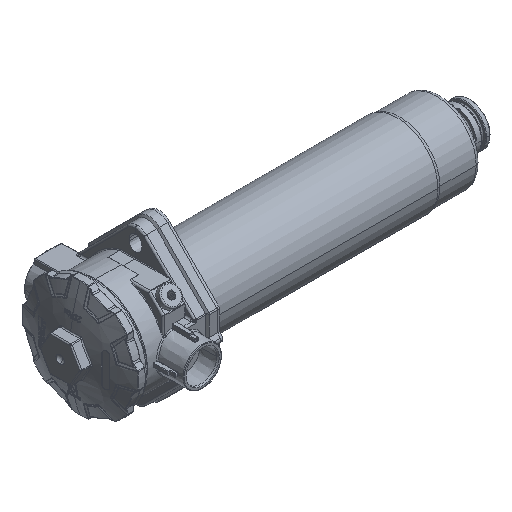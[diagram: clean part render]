
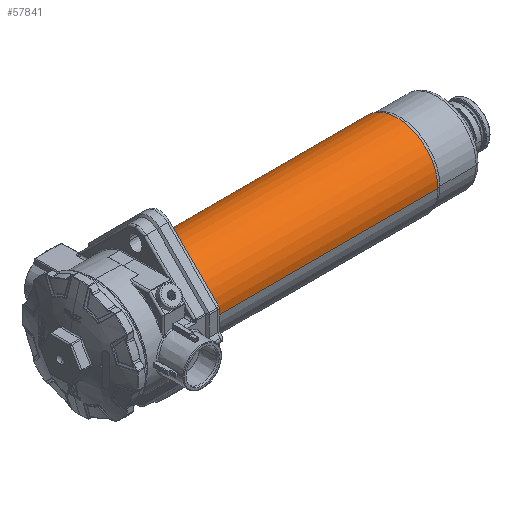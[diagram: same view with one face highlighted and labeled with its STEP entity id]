
A CAD part, isometric view. The second image highlights one B-rep face of the part: STEP entity #57841.
In plain terms, the highlighted cylindrical face has radius 36.5 mm (diameter 73 mm), a partial arc.
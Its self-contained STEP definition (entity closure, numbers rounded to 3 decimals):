
#13816=CARTESIAN_POINT('',(69.,0.,0.));
#13817=DIRECTION('',(1.,0.,0.));
#13818=DIRECTION('',(0.,1.,0.));
#13819=AXIS2_PLACEMENT_3D('',#13816,#13817,#13818);
#13824=DIRECTION('',(-1.,0.,0.));
#13825=VECTOR('',#13824,207.);
#13826=CARTESIAN_POINT('',(276.,36.5,
0.012));
#13827=LINE('',#13826,#13825);
#13831=DIRECTION('',(-1.,0.,0.));
#13832=VECTOR('',#13831,207.);
#13833=CARTESIAN_POINT('',(276.,-36.5,
-0.012));
#13834=LINE('',#13833,#13832);
#13853=CARTESIAN_POINT('',(276.,0.,0.));
#13854=DIRECTION('',(-1.,0.,0.));
#13855=DIRECTION('',(0.,-1.,0.));
#13856=AXIS2_PLACEMENT_3D('',#13853,#13854,#13855);
#36903=CARTESIAN_POINT('',(276.,36.5,
0.012));
#36904=CARTESIAN_POINT('',(276.,-36.5,
-0.012));
#36905=VERTEX_POINT('',#36903);
#36906=VERTEX_POINT('',#36904);
#37230=CARTESIAN_POINT('',(69.,-36.5,-0.012));
#37231=CARTESIAN_POINT('',(69.,36.5,0.012));
#37232=VERTEX_POINT('',#37230);
#37233=VERTEX_POINT('',#37231);
#57829=CARTESIAN_POINT('',(162.,0.,0.));
#57830=DIRECTION('',(1.,0.,0.));
#57831=DIRECTION('',(0.,1.,0.));
#57832=AXIS2_PLACEMENT_3D('',#57829,#57830,#57831);
#57833=CYLINDRICAL_SURFACE('',#57832,36.5);
#57834=ORIENTED_EDGE('',*,*,#57795,.F.);
#57835=ORIENTED_EDGE('',*,*,#57817,.F.);
#57837=ORIENTED_EDGE('',*,*,#57836,.F.);
#57838=ORIENTED_EDGE('',*,*,#57813,.T.);
#57839=EDGE_LOOP('',(#57834,#57835,#57837,#57838));
#57840=FACE_OUTER_BOUND('',#57839,.F.);
#13820=CIRCLE('',#13819,36.5);
#13857=CIRCLE('',#13856,36.5);
#57795=EDGE_CURVE('',#37233,#37232,#13820,.T.);
#57813=EDGE_CURVE('',#36906,#37232,#13834,.T.);
#57817=EDGE_CURVE('',#36905,#37233,#13827,.T.);
#57836=EDGE_CURVE('',#36906,#36905,#13857,.T.);
#57841=ADVANCED_FACE('',(#57840),#57833,.T.);
